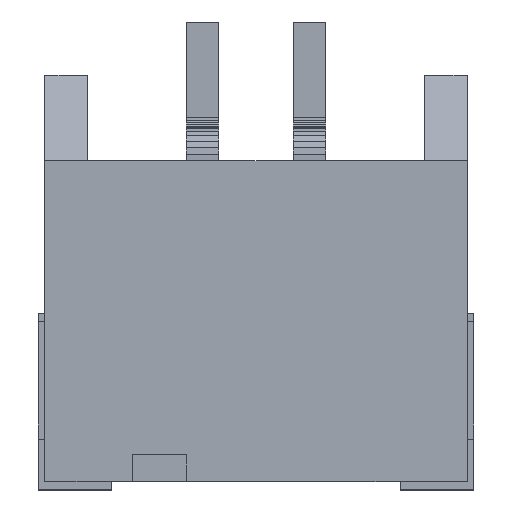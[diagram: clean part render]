
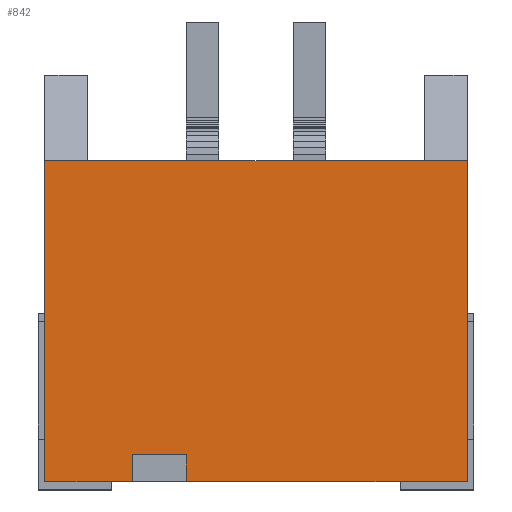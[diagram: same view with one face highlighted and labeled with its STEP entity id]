
A CAD part, top view. The second image highlights one B-rep face of the part: STEP entity #842.
In plain terms, the highlighted planar face has unit normal (0, 0, 1).
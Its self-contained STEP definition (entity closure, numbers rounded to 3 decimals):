
#54 = PLANE('',#55);
#55 = AXIS2_PLACEMENT_3D('',#56,#57,#58);
#56 = CARTESIAN_POINT('',(-3.95,1.6,0.1));
#57 = DIRECTION('',(1.,-0.,-0.));
#58 = DIRECTION('',(0.,0.,-1.));
#303 = VERTEX_POINT('',#304);
#304 = CARTESIAN_POINT('',(-3.95,-4.4,5.5));
#318 = PLANE('',#319);
#319 = AXIS2_PLACEMENT_3D('',#320,#321,#322);
#320 = CARTESIAN_POINT('',(-3.95,-4.4,0.1));
#321 = DIRECTION('',(-0.,-1.,0.));
#322 = DIRECTION('',(0.,0.,-1.));
#330 = EDGE_CURVE('',#331,#303,#333,.T.);
#331 = VERTEX_POINT('',#332);
#332 = CARTESIAN_POINT('',(-3.95,1.6,5.5));
#333 = SURFACE_CURVE('',#334,(#338,#345),.PCURVE_S1.);
#334 = LINE('',#335,#336);
#335 = CARTESIAN_POINT('',(-3.95,1.6,5.5));
#336 = VECTOR('',#337,1.);
#337 = DIRECTION('',(-0.,-1.,0.));
#338 = PCURVE('',#54,#339);
#339 = DEFINITIONAL_REPRESENTATION('',(#340),#344);
#340 = LINE('',#341,#342);
#341 = CARTESIAN_POINT('',(-5.4,0.));
#342 = VECTOR('',#343,1.);
#343 = DIRECTION('',(-0.,-1.));
#344 = ( GEOMETRIC_REPRESENTATION_CONTEXT(2) 
PARAMETRIC_REPRESENTATION_CONTEXT() REPRESENTATION_CONTEXT('2D SPACE',''
  ) );
#345 = PCURVE('',#346,#351);
#346 = PLANE('',#347);
#347 = AXIS2_PLACEMENT_3D('',#348,#349,#350);
#348 = CARTESIAN_POINT('',(-3.95,1.6,5.5));
#349 = DIRECTION('',(-0.,-0.,1.));
#350 = DIRECTION('',(-1.,0.,0.));
#351 = DEFINITIONAL_REPRESENTATION('',(#352),#356);
#352 = LINE('',#353,#354);
#353 = CARTESIAN_POINT('',(-0.,0.));
#354 = VECTOR('',#355,1.);
#355 = DIRECTION('',(-0.,1.));
#356 = ( GEOMETRIC_REPRESENTATION_CONTEXT(2) 
PARAMETRIC_REPRESENTATION_CONTEXT() REPRESENTATION_CONTEXT('2D SPACE',''
  ) );
#374 = PLANE('',#375);
#375 = AXIS2_PLACEMENT_3D('',#376,#377,#378);
#376 = CARTESIAN_POINT('',(-3.95,1.6,0.1));
#377 = DIRECTION('',(-0.,-1.,0.));
#378 = DIRECTION('',(0.,0.,-1.));
#589 = PLANE('',#590);
#590 = AXIS2_PLACEMENT_3D('',#591,#592,#593);
#591 = CARTESIAN_POINT('',(3.95,1.6,0.1));
#592 = DIRECTION('',(1.,-0.,-0.));
#593 = DIRECTION('',(0.,0.,-1.));
#748 = EDGE_CURVE('',#331,#749,#751,.T.);
#749 = VERTEX_POINT('',#750);
#750 = CARTESIAN_POINT('',(3.95,1.6,5.5));
#751 = SURFACE_CURVE('',#752,(#756,#763),.PCURVE_S1.);
#752 = LINE('',#753,#754);
#753 = CARTESIAN_POINT('',(-3.95,1.6,5.5));
#754 = VECTOR('',#755,1.);
#755 = DIRECTION('',(1.,-0.,-0.));
#756 = PCURVE('',#374,#757);
#757 = DEFINITIONAL_REPRESENTATION('',(#758),#762);
#758 = LINE('',#759,#760);
#759 = CARTESIAN_POINT('',(-5.4,0.));
#760 = VECTOR('',#761,1.);
#761 = DIRECTION('',(0.,1.));
#762 = ( GEOMETRIC_REPRESENTATION_CONTEXT(2) 
PARAMETRIC_REPRESENTATION_CONTEXT() REPRESENTATION_CONTEXT('2D SPACE',''
  ) );
#763 = PCURVE('',#346,#764);
#764 = DEFINITIONAL_REPRESENTATION('',(#765),#769);
#765 = LINE('',#766,#767);
#766 = CARTESIAN_POINT('',(-0.,0.));
#767 = VECTOR('',#768,1.);
#768 = DIRECTION('',(-1.,-0.));
#769 = ( GEOMETRIC_REPRESENTATION_CONTEXT(2) 
PARAMETRIC_REPRESENTATION_CONTEXT() REPRESENTATION_CONTEXT('2D SPACE',''
  ) );
#842 = ADVANCED_FACE('',(#843),#346,.T.);
#843 = FACE_BOUND('',#844,.F.);
#844 = EDGE_LOOP('',(#845,#868,#869,#870,#893,#916,#944,#972));
#845 = ORIENTED_EDGE('',*,*,#846,.F.);
#846 = EDGE_CURVE('',#303,#847,#849,.T.);
#847 = VERTEX_POINT('',#848);
#848 = CARTESIAN_POINT('',(-2.31,-4.4,5.5));
#849 = SURFACE_CURVE('',#850,(#854,#861),.PCURVE_S1.);
#850 = LINE('',#851,#852);
#851 = CARTESIAN_POINT('',(-3.95,-4.4,5.5));
#852 = VECTOR('',#853,1.);
#853 = DIRECTION('',(1.,-0.,-0.));
#854 = PCURVE('',#346,#855);
#855 = DEFINITIONAL_REPRESENTATION('',(#856),#860);
#856 = LINE('',#857,#858);
#857 = CARTESIAN_POINT('',(-0.,6.));
#858 = VECTOR('',#859,1.);
#859 = DIRECTION('',(-1.,-0.));
#860 = ( GEOMETRIC_REPRESENTATION_CONTEXT(2) 
PARAMETRIC_REPRESENTATION_CONTEXT() REPRESENTATION_CONTEXT('2D SPACE',''
  ) );
#861 = PCURVE('',#318,#862);
#862 = DEFINITIONAL_REPRESENTATION('',(#863),#867);
#863 = LINE('',#864,#865);
#864 = CARTESIAN_POINT('',(-5.4,0.));
#865 = VECTOR('',#866,1.);
#866 = DIRECTION('',(0.,1.));
#867 = ( GEOMETRIC_REPRESENTATION_CONTEXT(2) 
PARAMETRIC_REPRESENTATION_CONTEXT() REPRESENTATION_CONTEXT('2D SPACE',''
  ) );
#868 = ORIENTED_EDGE('',*,*,#330,.F.);
#869 = ORIENTED_EDGE('',*,*,#748,.T.);
#870 = ORIENTED_EDGE('',*,*,#871,.T.);
#871 = EDGE_CURVE('',#749,#872,#874,.T.);
#872 = VERTEX_POINT('',#873);
#873 = CARTESIAN_POINT('',(3.95,-4.4,5.5));
#874 = SURFACE_CURVE('',#875,(#879,#886),.PCURVE_S1.);
#875 = LINE('',#876,#877);
#876 = CARTESIAN_POINT('',(3.95,1.6,5.5));
#877 = VECTOR('',#878,1.);
#878 = DIRECTION('',(-0.,-1.,0.));
#879 = PCURVE('',#346,#880);
#880 = DEFINITIONAL_REPRESENTATION('',(#881),#885);
#881 = LINE('',#882,#883);
#882 = CARTESIAN_POINT('',(-7.9,0.));
#883 = VECTOR('',#884,1.);
#884 = DIRECTION('',(-0.,1.));
#885 = ( GEOMETRIC_REPRESENTATION_CONTEXT(2) 
PARAMETRIC_REPRESENTATION_CONTEXT() REPRESENTATION_CONTEXT('2D SPACE',''
  ) );
#886 = PCURVE('',#589,#887);
#887 = DEFINITIONAL_REPRESENTATION('',(#888),#892);
#888 = LINE('',#889,#890);
#889 = CARTESIAN_POINT('',(-5.4,0.));
#890 = VECTOR('',#891,1.);
#891 = DIRECTION('',(-0.,-1.));
#892 = ( GEOMETRIC_REPRESENTATION_CONTEXT(2) 
PARAMETRIC_REPRESENTATION_CONTEXT() REPRESENTATION_CONTEXT('2D SPACE',''
  ) );
#893 = ORIENTED_EDGE('',*,*,#894,.F.);
#894 = EDGE_CURVE('',#895,#872,#897,.T.);
#895 = VERTEX_POINT('',#896);
#896 = CARTESIAN_POINT('',(-1.3,-4.4,5.5));
#897 = SURFACE_CURVE('',#898,(#902,#909),.PCURVE_S1.);
#898 = LINE('',#899,#900);
#899 = CARTESIAN_POINT('',(-3.95,-4.4,5.5));
#900 = VECTOR('',#901,1.);
#901 = DIRECTION('',(1.,-0.,-0.));
#902 = PCURVE('',#346,#903);
#903 = DEFINITIONAL_REPRESENTATION('',(#904),#908);
#904 = LINE('',#905,#906);
#905 = CARTESIAN_POINT('',(-0.,6.));
#906 = VECTOR('',#907,1.);
#907 = DIRECTION('',(-1.,-0.));
#908 = ( GEOMETRIC_REPRESENTATION_CONTEXT(2) 
PARAMETRIC_REPRESENTATION_CONTEXT() REPRESENTATION_CONTEXT('2D SPACE',''
  ) );
#909 = PCURVE('',#318,#910);
#910 = DEFINITIONAL_REPRESENTATION('',(#911),#915);
#911 = LINE('',#912,#913);
#912 = CARTESIAN_POINT('',(-5.4,0.));
#913 = VECTOR('',#914,1.);
#914 = DIRECTION('',(0.,1.));
#915 = ( GEOMETRIC_REPRESENTATION_CONTEXT(2) 
PARAMETRIC_REPRESENTATION_CONTEXT() REPRESENTATION_CONTEXT('2D SPACE',''
  ) );
#916 = ORIENTED_EDGE('',*,*,#917,.F.);
#917 = EDGE_CURVE('',#918,#895,#920,.T.);
#918 = VERTEX_POINT('',#919);
#919 = CARTESIAN_POINT('',(-1.3,-3.9,5.5));
#920 = SURFACE_CURVE('',#921,(#925,#932),.PCURVE_S1.);
#921 = LINE('',#922,#923);
#922 = CARTESIAN_POINT('',(-1.3,-1.15,5.5));
#923 = VECTOR('',#924,1.);
#924 = DIRECTION('',(-0.,-1.,0.));
#925 = PCURVE('',#346,#926);
#926 = DEFINITIONAL_REPRESENTATION('',(#927),#931);
#927 = LINE('',#928,#929);
#928 = CARTESIAN_POINT('',(-2.65,2.75));
#929 = VECTOR('',#930,1.);
#930 = DIRECTION('',(-0.,1.));
#931 = ( GEOMETRIC_REPRESENTATION_CONTEXT(2) 
PARAMETRIC_REPRESENTATION_CONTEXT() REPRESENTATION_CONTEXT('2D SPACE',''
  ) );
#932 = PCURVE('',#933,#938);
#933 = PLANE('',#934);
#934 = AXIS2_PLACEMENT_3D('',#935,#936,#937);
#935 = CARTESIAN_POINT('',(-1.3,-3.9,5.));
#936 = DIRECTION('',(1.,-0.,-0.));
#937 = DIRECTION('',(0.,0.,-1.));
#938 = DEFINITIONAL_REPRESENTATION('',(#939),#943);
#939 = LINE('',#940,#941);
#940 = CARTESIAN_POINT('',(-0.5,2.75));
#941 = VECTOR('',#942,1.);
#942 = DIRECTION('',(-0.,-1.));
#943 = ( GEOMETRIC_REPRESENTATION_CONTEXT(2) 
PARAMETRIC_REPRESENTATION_CONTEXT() REPRESENTATION_CONTEXT('2D SPACE',''
  ) );
#944 = ORIENTED_EDGE('',*,*,#945,.T.);
#945 = EDGE_CURVE('',#918,#946,#948,.T.);
#946 = VERTEX_POINT('',#947);
#947 = CARTESIAN_POINT('',(-2.31,-3.9,5.5));
#948 = SURFACE_CURVE('',#949,(#953,#960),.PCURVE_S1.);
#949 = LINE('',#950,#951);
#950 = CARTESIAN_POINT('',(-3.13,-3.9,5.5));
#951 = VECTOR('',#952,1.);
#952 = DIRECTION('',(-1.,-0.,-0.));
#953 = PCURVE('',#346,#954);
#954 = DEFINITIONAL_REPRESENTATION('',(#955),#959);
#955 = LINE('',#956,#957);
#956 = CARTESIAN_POINT('',(-0.82,5.5));
#957 = VECTOR('',#958,1.);
#958 = DIRECTION('',(1.,-0.));
#959 = ( GEOMETRIC_REPRESENTATION_CONTEXT(2) 
PARAMETRIC_REPRESENTATION_CONTEXT() REPRESENTATION_CONTEXT('2D SPACE',''
  ) );
#960 = PCURVE('',#961,#966);
#961 = PLANE('',#962);
#962 = AXIS2_PLACEMENT_3D('',#963,#964,#965);
#963 = CARTESIAN_POINT('',(-2.31,-3.9,5.));
#964 = DIRECTION('',(-0.,-1.,0.));
#965 = DIRECTION('',(0.,0.,-1.));
#966 = DEFINITIONAL_REPRESENTATION('',(#967),#971);
#967 = LINE('',#968,#969);
#968 = CARTESIAN_POINT('',(-0.5,-0.82));
#969 = VECTOR('',#970,1.);
#970 = DIRECTION('',(-0.,-1.));
#971 = ( GEOMETRIC_REPRESENTATION_CONTEXT(2) 
PARAMETRIC_REPRESENTATION_CONTEXT() REPRESENTATION_CONTEXT('2D SPACE',''
  ) );
#972 = ORIENTED_EDGE('',*,*,#973,.T.);
#973 = EDGE_CURVE('',#946,#847,#974,.T.);
#974 = SURFACE_CURVE('',#975,(#979,#986),.PCURVE_S1.);
#975 = LINE('',#976,#977);
#976 = CARTESIAN_POINT('',(-2.31,-1.15,5.5));
#977 = VECTOR('',#978,1.);
#978 = DIRECTION('',(-0.,-1.,0.));
#979 = PCURVE('',#346,#980);
#980 = DEFINITIONAL_REPRESENTATION('',(#981),#985);
#981 = LINE('',#982,#983);
#982 = CARTESIAN_POINT('',(-1.64,2.75));
#983 = VECTOR('',#984,1.);
#984 = DIRECTION('',(-0.,1.));
#985 = ( GEOMETRIC_REPRESENTATION_CONTEXT(2) 
PARAMETRIC_REPRESENTATION_CONTEXT() REPRESENTATION_CONTEXT('2D SPACE',''
  ) );
#986 = PCURVE('',#987,#992);
#987 = PLANE('',#988);
#988 = AXIS2_PLACEMENT_3D('',#989,#990,#991);
#989 = CARTESIAN_POINT('',(-2.31,-3.9,5.));
#990 = DIRECTION('',(1.,-0.,-0.));
#991 = DIRECTION('',(0.,0.,-1.));
#992 = DEFINITIONAL_REPRESENTATION('',(#993),#997);
#993 = LINE('',#994,#995);
#994 = CARTESIAN_POINT('',(-0.5,2.75));
#995 = VECTOR('',#996,1.);
#996 = DIRECTION('',(-0.,-1.));
#997 = ( GEOMETRIC_REPRESENTATION_CONTEXT(2) 
PARAMETRIC_REPRESENTATION_CONTEXT() REPRESENTATION_CONTEXT('2D SPACE',''
  ) );
